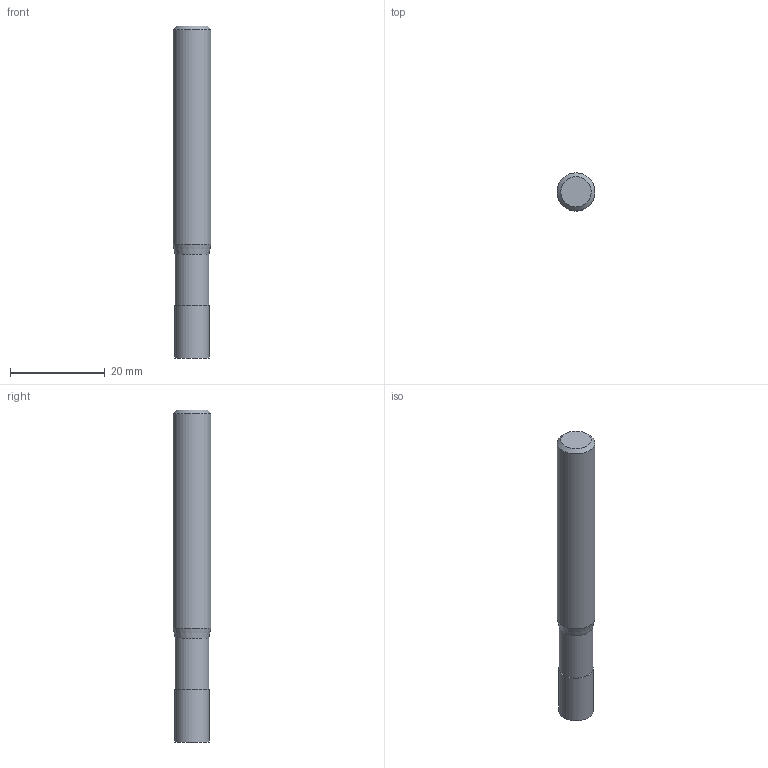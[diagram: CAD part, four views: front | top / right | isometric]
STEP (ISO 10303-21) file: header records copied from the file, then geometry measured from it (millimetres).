
FILE_DESCRIPTION((''),'2;1');
FILE_NAME('C:\Users\nsx150\AppData\Local\Temp\Mastercam 2021\EUJSUNXURU\TEMP.step','2021-04-22T10:29:11',(''),(''),'STEP Write','Mastercam 2021 ... CNC Software, Inc.','');
FILE_SCHEMA(('AUTOMOTIVE_DESIGN'));
Length unit declared in the file: millimetre
Products named in the file (1): None
Bounding box: 8 x 8 x 70 mm (x, y, z)
Volume: 3290.7 mm3; surface area: 1863.4 mm2
Topology: 2 solids, 2 shells, 9 faces, 12 edges, 7 vertices
Faces by surface type: plane 4, cylinder 3, cone 2
Full cylindrical faces by diameter (mm): 7.1 x1, 7.3 x1, 8 x1
Entity records: 211 total; most frequent: DIRECTION 36, CARTESIAN_POINT 25, AXIS2_PLACEMENT_3D 18, ORIENTED_EDGE 14, EDGE_LOOP 14, STYLED_ITEM 12, ADVANCED_FACE 9, FACE_BOUND 8
